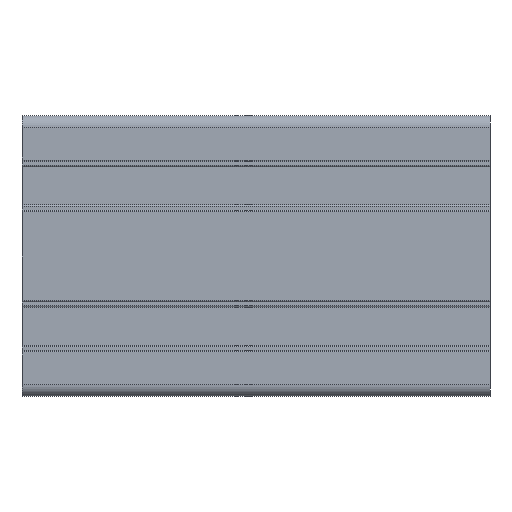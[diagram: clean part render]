
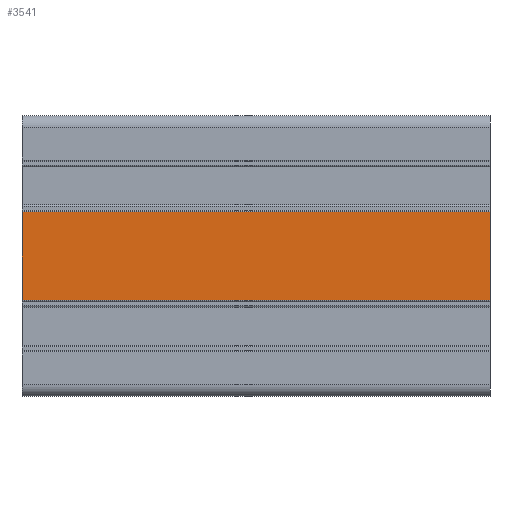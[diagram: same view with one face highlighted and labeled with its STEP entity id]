
A CAD part, left-side view. The second image highlights one B-rep face of the part: STEP entity #3541.
In plain terms, the highlighted planar face has unit normal (-1, 0, 0).
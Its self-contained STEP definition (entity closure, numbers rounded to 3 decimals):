
#211 = CARTESIAN_POINT ( 'NONE',  ( -30., 100., 0. ) ) ;
#736 = PLANE ( 'NONE',  #6448 ) ;
#1370 = DIRECTION ( 'NONE',  ( 0., 0., 1. ) ) ;
#1388 = CARTESIAN_POINT ( 'NONE',  ( -30., 0., 9.5 ) ) ;
#1510 = LINE ( 'NONE', #2632, #7893 ) ;
#1776 = EDGE_CURVE ( 'NONE', #2074, #6680, #8368, .T. ) ;
#2074 = VERTEX_POINT ( 'NONE', #5159 ) ;
#2632 = CARTESIAN_POINT ( 'NONE',  ( -30., 100., 0. ) ) ;
#2673 = CARTESIAN_POINT ( 'NONE',  ( -30., 0., 0. ) ) ;
#2720 = ORIENTED_EDGE ( 'NONE', *, *, #3168, .F. ) ;
#3168 = EDGE_CURVE ( 'NONE', #5472, #5785, #1510, .T. ) ;
#3178 = DIRECTION ( 'NONE',  ( 0., -1., 0. ) ) ;
#3541 = ADVANCED_FACE ( 'NONE', ( #5543 ), #736, .F. ) ;
#3655 = VECTOR ( 'NONE', #3178, 1000. ) ;
#3750 = ORIENTED_EDGE ( 'NONE', *, *, #1776, .T. ) ;
#3876 = LINE ( 'NONE', #5113, #3655 ) ;
#4396 = VECTOR ( 'NONE', #7270, 1000. ) ;
#4803 = CARTESIAN_POINT ( 'NONE',  ( -30., 100., -9.5 ) ) ;
#4993 = VECTOR ( 'NONE', #1370, 1000. ) ;
#5034 = DIRECTION ( 'NONE',  ( 0., 0., -1. ) ) ;
#5113 = CARTESIAN_POINT ( 'NONE',  ( -30., 100., 9.5 ) ) ;
#5159 = CARTESIAN_POINT ( 'NONE',  ( -30., 0., -9.5 ) ) ;
#5421 = EDGE_LOOP ( 'NONE', ( #3750, #7301, #2720, #7710 ) ) ;
#5472 = VERTEX_POINT ( 'NONE', #4803 ) ;
#5543 = FACE_OUTER_BOUND ( 'NONE', #5421, .T. ) ;
#5785 = VERTEX_POINT ( 'NONE', #7867 ) ;
#6448 = AXIS2_PLACEMENT_3D ( 'NONE', #211, #8370, #5034 ) ;
#6680 = VERTEX_POINT ( 'NONE', #1388 ) ;
#6826 = LINE ( 'NONE', #7966, #4396 ) ;
#7270 = DIRECTION ( 'NONE',  ( 0., -1., 0. ) ) ;
#7301 = ORIENTED_EDGE ( 'NONE', *, *, #8467, .F. ) ;
#7385 = DIRECTION ( 'NONE',  ( 0., 0., 1. ) ) ;
#7591 = EDGE_CURVE ( 'NONE', #5472, #2074, #6826, .T. ) ;
#7710 = ORIENTED_EDGE ( 'NONE', *, *, #7591, .T. ) ;
#7867 = CARTESIAN_POINT ( 'NONE',  ( -30., 100., 9.5 ) ) ;
#7893 = VECTOR ( 'NONE', #7385, 1000. ) ;
#7966 = CARTESIAN_POINT ( 'NONE',  ( -30., 100., -9.5 ) ) ;
#8368 = LINE ( 'NONE', #2673, #4993 ) ;
#8370 = DIRECTION ( 'NONE',  ( 1., 0., 0. ) ) ;
#8467 = EDGE_CURVE ( 'NONE', #5785, #6680, #3876, .T. ) ;
